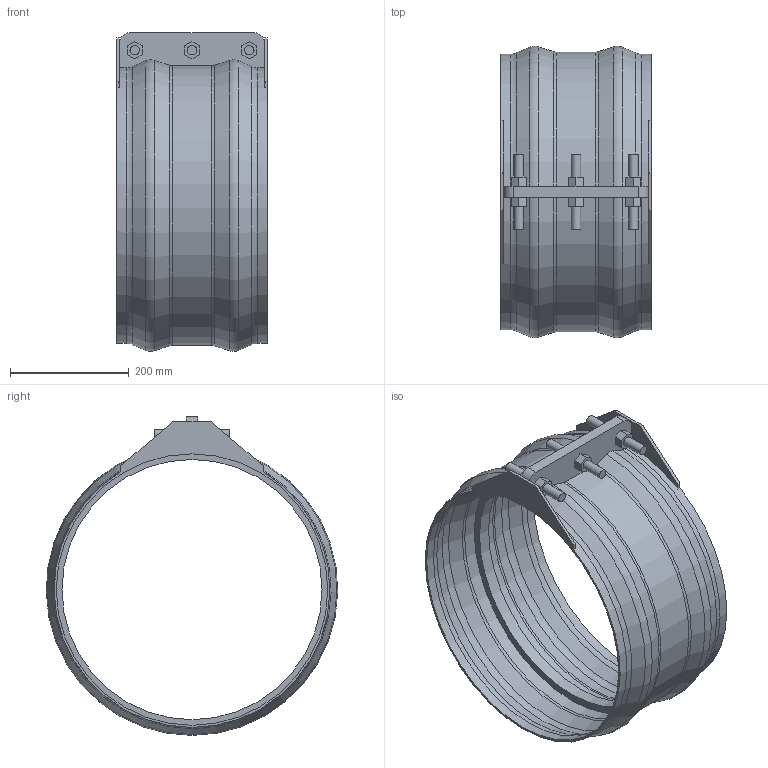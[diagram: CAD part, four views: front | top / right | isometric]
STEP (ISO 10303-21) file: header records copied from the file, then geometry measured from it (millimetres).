
FILE_DESCRIPTION(/* description */ ('VIC SS NON RESTRAINED COUPLING STYLE 229S (FLEX) (BEF)','CAx-IF Rec.Pracs.---Representation and Presentation of Product Manufacturing Information (PMI)---4.0---2014-10-13'),/* implementation_level */ '2;1');
FILE_NAME(/* name */ 'C:\Users\Vjadhav\Desktop\CAD for Inventor\1\229S\STEP\Victaulic_VBSP_Coupling Flexible Non-Restrained_Style 229S (BEF)\Victaulic_VBSP_Coupling Flexible Non-Restrained_Style 229S (BEF)_18 (450).stp',/* time_stamp */ '2021-08-26T18:17:07+06:00',/* author */ ('Vjadhav'),/* organization */ ('Victaulic'),/* preprocessor_version */ 'ST-DEVELOPER v17.2',/* originating_system */ 'Autodesk Inventor 2019',/* authorisation */ '');
FILE_SCHEMA (('AP242_MANAGED_MODEL_BASED_3D_ENGINEERING_MIM_LF { 1 0 10303 442 1 1 4 }'));
Length unit declared in the file: inch
Products named in the file (1): 229S-18.0
Bounding box: 254 x 490.94 x 536.74 mm (x, y, z)
Volume: 2215102.2 mm3; surface area: 898230.2 mm2
Topology: 1 solids, 1 shells, 111 faces, 301 edges, 206 vertices
Faces by surface type: plane 67, cylinder 24, torus 12, cone 8
Full cylindrical faces by diameter (mm): 15.875 x6, 438.15 x1, 457.2 x2, 463.55 x2
Entity records: 3874 total; most frequent: CARTESIAN_POINT 748, DIRECTION 633, ORIENTED_EDGE 602, EDGE_CURVE 301, AXIS2_PLACEMENT_3D 227, VERTEX_POINT 206, LINE 179, VECTOR 179
